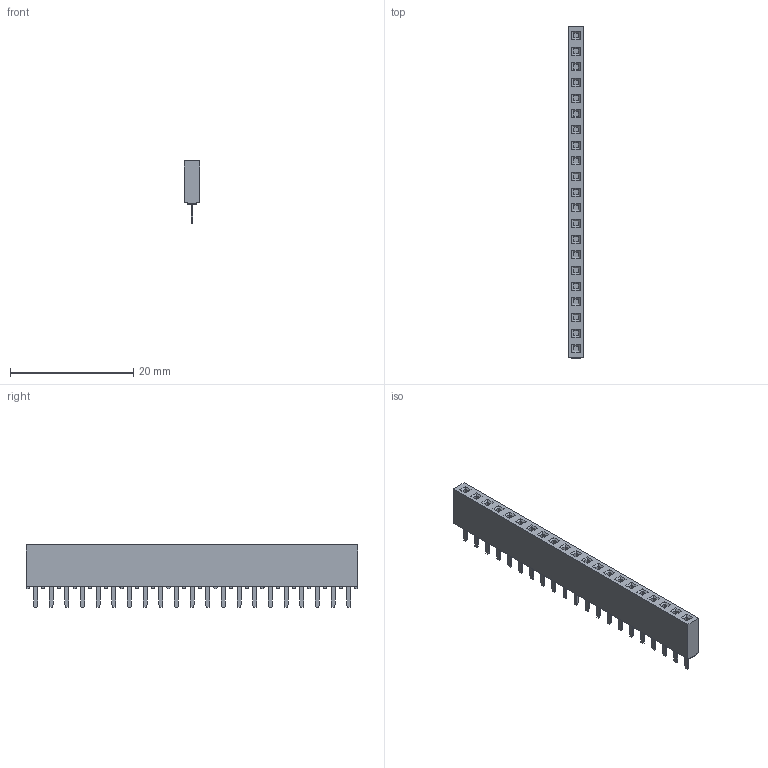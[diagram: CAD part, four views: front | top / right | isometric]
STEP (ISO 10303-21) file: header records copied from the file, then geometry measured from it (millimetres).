
FILE_DESCRIPTION(/* description */ (''),/* implementation_level */ '2;1');
FILE_NAME(/* name */ '960121-6202-XX',/* time_stamp */ '2007-06-18T07:49:56+02:00',/* author */ (''),/* organization */ (''),/* preprocessor_version */ 'ST-DEVELOPER v9',/* originating_system */ 'UGS - NX 4.0',/* authorisation */ '');
FILE_SCHEMA (('AUTOMOTIVE_DESIGN { 1 0 10303 214 1 1 1 1 }'));
Length unit declared in the file: millimetre
Products named in the file (1): 960121-6202-XX
Bounding box: 2.5 x 53.84 x 10.1 mm (x, y, z)
Volume: 881.3 mm3; surface area: 1406.4 mm2
Topology: 1 solids, 1 shells, 494 faces, 1206 edges, 776 vertices
Faces by surface type: plane 450, cylinder 44
Entity records: 14190 total; most frequent: CARTESIAN_POINT 2477, ORIENTED_EDGE 2412, DIRECTION 2284, EDGE_CURVE 1206, LINE 1118, VECTOR 1118, VERTEX_POINT 776, AXIS2_PLACEMENT_3D 583
